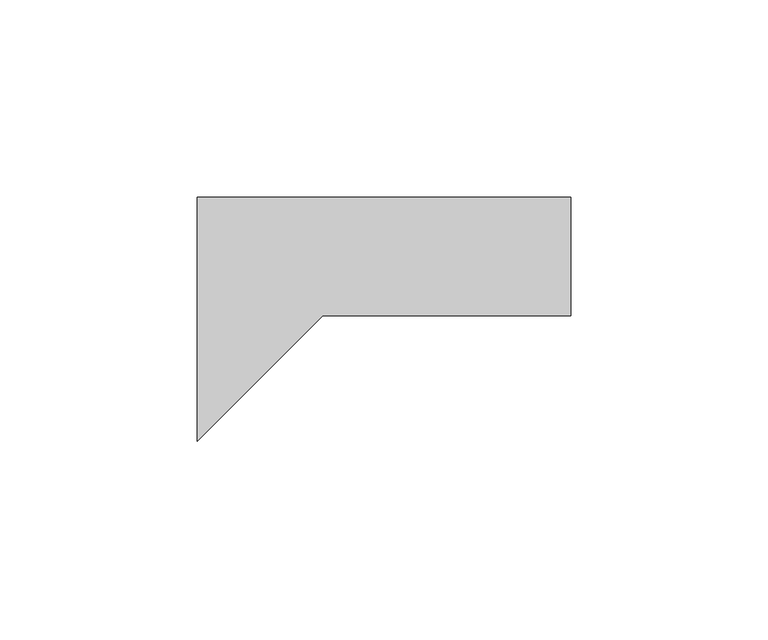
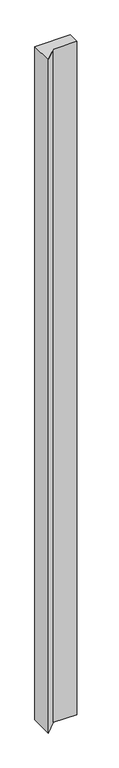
"""IFC4 building model written with IfcOpenShell, lengths in millimetres: plate geometry, ATELIERS 3S_EPURE CDB 200_VERTICAL : AZURO."""

from ifc_helpers import new_model, si_unit, origin, origin_with_axes, place, context, project, spatial, polyline, outline, extrude, source, transform, mapped, element, save


def plate_d424103e(model_context):
    return source(origin(), model_context, "Body", "SweptSolid", [
        extrude(outline(polyline([(-47.2499998, 0.0), (47.2499998, 0.0), (47.2499998, -29.9980469), (-15.5428847, -29.9980469), (-47.2499998, -61.705162), (-47.2499998, 0.0)])), origin_with_axes(), (0.0, 0.0, 1.0), 1900.0),
    ])


if __name__ == "__main__":
    model = new_model("IFC4")
    model_context = context("Model", 3, world=origin())
    ifc_project = project(units=[si_unit("LENGTHUNIT", "METRE", prefix="MILLI")], contexts=[model_context])
    site = spatial("IfcSite", under=ifc_project)
    building = spatial("IfcBuilding", under=site)
    placement = place(None, origin())
    plate_shape = plate_d424103e(model_context)
    element("IfcPlate", 1, ObjectType="ATELIERS 3S_EPURE CDB 200_VERTICAL : AZURO", at=placement, inside=building, context=model_context, shape_type="MappedRepresentation", body=[
        mapped(plate_shape, transform((0.0, 0.0, 0.0), x_axis=(1.0, 0.0, 0.0), y_axis=(0.0, 1.0, 0.0), z_axis=(0.0, 0.0, 1.0))),
    ])
    save(model, "model.ifc")
